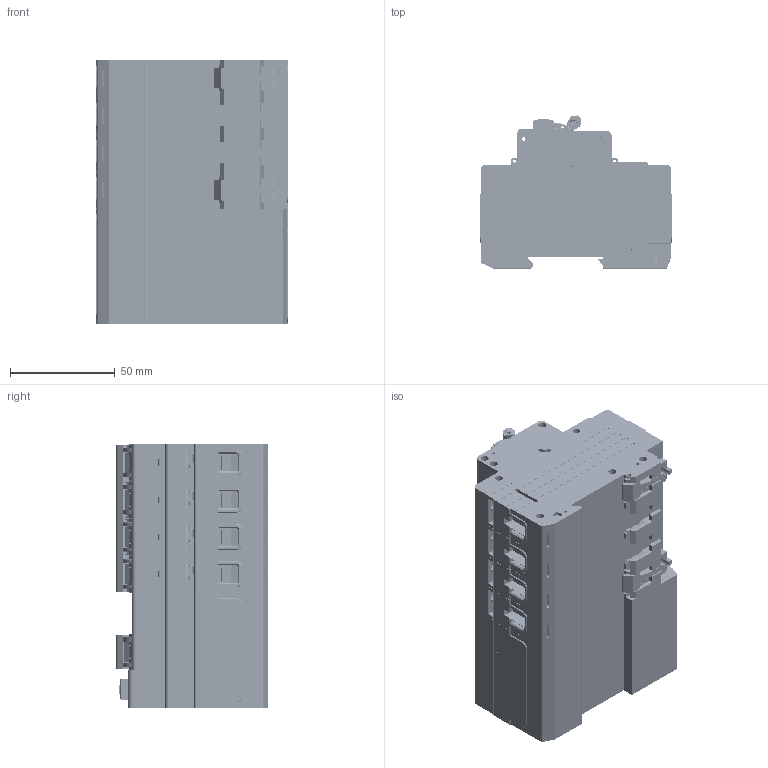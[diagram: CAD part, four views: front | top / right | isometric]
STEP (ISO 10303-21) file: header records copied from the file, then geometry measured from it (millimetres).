
FILE_DESCRIPTION (( 'STEP AP214' ), '1' );
FILE_NAME ('ÂÄ63 4 Ïîëþñà äëÿ îçíàêîìëåíèÿ.STEP', '2013-10-18T10:30:04', ( 'admin' ), ( 'KEAZ' ), 'SwSTEP 2.0', 'SolidWorks 2007', '' );
FILE_SCHEMA (( 'AUTOMOTIVE_DESIGN' ));
Length unit declared in the file: millimetre
Products named in the file (17): ïðàâ áîêîâèíà äëÿ îçíàêîìëåíèÿ1; Êðûøêà 4 ïîëþñà_Ïî óìîë÷àíèþ; Ïåðåäíÿÿ ïàíàëü 4 ïîëþñà_Ïî óìîë÷àíèþ; êíîïêà_ÃÆÈÊ.753313.004_Ïî óìîë÷àíèþ; Áîêîâèíà_ëåâàÿ_ÃÆÈÊ.735224.042; 令阓镳_N02_闷仁.735224.041; äëÿ ñáîðîê1_Ïî óìîë÷àíèþ; çàãëóøêà_ÃÆÈÊ.753313.003_ñ çàìå÷àíèÿìè Êèòàÿ; ðó÷êà_N_ÃÆÈÊ.753725.004_Ïî óìîë÷àíèþ; ÂÄ63 4 Ïîëþñà äëÿ îçíàêîìëåíèÿ; Ñêîáà_4Ï_ÃÆÈÊ.746442.005 _-02 (áåç ñëåäà); áîêîâèíà 2_Ïî óìîë÷àíèþ; áîêîâèíà 1_Ïî óìîë÷àíèþ; Êîðïóñ 4 ïîëþñà_Ïî óìîë÷àíèþ; Áîêîâèíà 4_Ïî óìîë÷àíèþ; Íîâ ðó÷ ÃÆÈÊ.753725.009_Ïî óìîë÷àíèþ; Áîêîâèíà 3 äëÿ 4-õ ïîëþñîâ_Ïî óìîë÷àíèþ
Assembly tree (28 placements, depth 2):
  ÂÄ63 4 Ïîëþñà äëÿ îçíàêîìëåíèÿ
    Áîêîâèíà_ëåâàÿ_ÃÆÈÊ.735224.042  x4
    令阓镳_N02_闷仁.735224.041  x3
    äëÿ ñáîðîê1_Ïî óìîë÷àíèþ  x2
    çàãëóøêà_ÃÆÈÊ.753313.003_ñ çàìå÷àíèÿìè Êèòàÿ  x4
    Áîêîâèíà 3 äëÿ 4-õ ïîëþñîâ_Ïî óìîë÷àíèþ
    Êîðïóñ 4 ïîëþñà_Ïî óìîë÷àíèþ
    ðó÷êà_N_ÃÆÈÊ.753725.004_Ïî óìîë÷àíèþ  x4
    Êðûøêà 4 ïîëþñà_Ïî óìîë÷àíèþ
    ïðàâ áîêîâèíà äëÿ îçíàêîìëåíèÿ1
    Íîâ ðó÷ ÃÆÈÊ.753725.009_Ïî óìîë÷àíèþ
    áîêîâèíà 1_Ïî óìîë÷àíèþ
    Áîêîâèíà 4_Ïî óìîë÷àíèþ
    Ïåðåäíÿÿ ïàíàëü 4 ïîëþñà_Ïî óìîë÷àíèþ
    êíîïêà_ÃÆÈÊ.753313.004_Ïî óìîë÷àíèþ
    Ñêîáà_4Ï_ÃÆÈÊ.746442.005 _-02 (áåç ñëåäà)
    áîêîâèíà 2_Ïî óìîë÷àíèþ
Bounding box: 92.2 x 73.14 x 126.4 mm (x, y, z)
Volume: 198341.9 mm3; surface area: 271086.3 mm2
Topology: 28 solids, 28 shells, 11501 faces, 31571 edges, 20574 vertices
Faces by surface type: plane 7287, cylinder 3671, cone 344, torus 150, bspline 40, sphere 9
Entity records: 177971 total; most frequent: CARTESIAN_POINT 33061, ORIENTED_EDGE 29888, DIRECTION 29293, EDGE_CURVE 14944, VECTOR 11037, LINE 11037, VERTEX_POINT 9744, AXIS2_PLACEMENT_3D 9128
